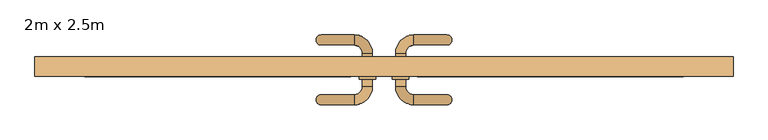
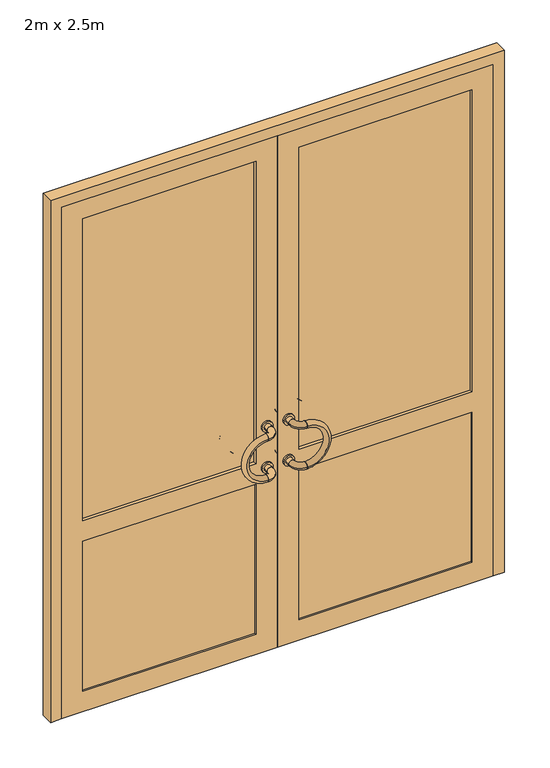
"""IFC4 building model written with IfcOpenShell, lengths in millimetres: door geometry, PVC Double - Panneaux vitrés haut : 2m x 2.5m."""

from ifc_helpers import new_model, si_unit, point, frame, frame_2d, origin, place, context, project, spatial, polyline, circle_curve, ellipse_curve, trimmed, segment, composite_curve, outline, extrude, faceted_brep, source, transform, mapped, element, save
from ifc_brep_helpers import plane_surface, revolved_surface, advanced_brep


def door_2m_x_2_5m_55b985e7(model_context):
    return source(origin(), model_context, "Body", "SolidModel", [
        extrude(outline(composite_curve([segment(trimmed(circle_curve(frame_2d((1100.0, -50.0)), 25.0), [point((1100.0, -25.0))], [point((1100.0, -75.0))], False, "CARTESIAN"), True, "CONTINUOUS"), segment(trimmed(circle_curve(frame_2d((1100.0, -50.0)), 25.0), [point((1100.0, -75.0))], [point((1100.0, -25.0))], False, "CARTESIAN"), True, "CONTINUOUS")], self_intersect=False), holes=[composite_curve([segment(trimmed(circle_curve(frame_2d((1100.0, -50.0)), 15.0), [point((1100.0, -35.0))], [point((1100.0, -65.0))], True, "CARTESIAN"), True, "CONTINUOUS"), segment(trimmed(circle_curve(frame_2d((1100.0, -50.0)), 15.0), [point((1100.0, -65.0))], [point((1100.0, -35.0))], True, "CARTESIAN"), True, "CONTINUOUS")], self_intersect=False)]), frame((0.0, -95.0, 0.0), z_axis=(0.0, 1.0, 0.0), x_axis=(0.0, 0.0, 1.0)), (0.0, 0.0, 1.0), 8.0),
        extrude(outline(composite_curve([segment(trimmed(circle_curve(frame_2d((900.0, -50.0)), 25.0), [point((900.0, -25.0))], [point((900.0, -75.0))], False, "CARTESIAN"), True, "CONTINUOUS"), segment(trimmed(circle_curve(frame_2d((900.0, -50.0)), 25.0), [point((900.0, -75.0))], [point((900.0, -25.0))], False, "CARTESIAN"), True, "CONTINUOUS")], self_intersect=False), holes=[composite_curve([segment(trimmed(circle_curve(frame_2d((900.0, -50.0)), 15.0), [point((900.0, -35.0))], [point((900.0, -65.0))], True, "CARTESIAN"), True, "CONTINUOUS"), segment(trimmed(circle_curve(frame_2d((900.0, -50.0)), 15.0), [point((900.0, -65.0))], [point((900.0, -35.0))], True, "CARTESIAN"), True, "CONTINUOUS")], self_intersect=False)]), frame((0.0, -95.0, 0.0), z_axis=(0.0, 1.0, 0.0), x_axis=(0.0, 0.0, 1.0)), (0.0, 0.0, 1.0), 8.0),
        extrude(outline(composite_curve([segment(trimmed(circle_curve(frame_2d((1100.0, -50.0)), 25.0), [point((1100.0, -25.0))], [point((1100.0, -75.0))], False, "CARTESIAN"), True, "CONTINUOUS"), segment(trimmed(circle_curve(frame_2d((1100.0, -50.0)), 25.0), [point((1100.0, -75.0))], [point((1100.0, -25.0))], False, "CARTESIAN"), True, "CONTINUOUS")], self_intersect=False), holes=[composite_curve([segment(trimmed(circle_curve(frame_2d((1100.0, -50.0)), 15.0), [point((1100.0, -35.0))], [point((1100.0, -65.0))], True, "CARTESIAN"), True, "CONTINUOUS"), segment(trimmed(circle_curve(frame_2d((1100.0, -50.0)), 15.0), [point((1100.0, -65.0))], [point((1100.0, -35.0))], True, "CARTESIAN"), True, "CONTINUOUS")], self_intersect=False)]), frame((0.0, -143.0, 0.0), z_axis=(0.0, 1.0, 0.0), x_axis=(0.0, 0.0, 1.0)), (0.0, 0.0, 1.0), 8.0),
        extrude(outline(composite_curve([segment(trimmed(circle_curve(frame_2d((900.0, -50.0)), 25.0), [point((900.0, -25.0))], [point((900.0, -75.0))], False, "CARTESIAN"), True, "CONTINUOUS"), segment(trimmed(circle_curve(frame_2d((900.0, -50.0)), 25.0), [point((900.0, -75.0))], [point((900.0, -25.0))], False, "CARTESIAN"), True, "CONTINUOUS")], self_intersect=False), holes=[composite_curve([segment(trimmed(circle_curve(frame_2d((900.0, -50.0)), 15.0), [point((900.0, -35.0))], [point((900.0, -65.0))], True, "CARTESIAN"), True, "CONTINUOUS"), segment(trimmed(circle_curve(frame_2d((900.0, -50.0)), 15.0), [point((900.0, -65.0))], [point((900.0, -35.0))], True, "CARTESIAN"), True, "CONTINUOUS")], self_intersect=False)]), frame((0.0, -143.0, 0.0), z_axis=(0.0, 1.0, 0.0), x_axis=(0.0, 0.0, 1.0)), (0.0, 0.0, 1.0), 8.0),
        advanced_brep(
        [(-90.0, -10.0, 1100.0), (-90.0, -40.0, 1100.0), (-90.0, -10.0, 900.0), (-90.0, -40.0, 900.0)],
        [
            (0, 1, circle_curve(frame((-90.0, -25.0, 1100.0), z_axis=(1.0, 0.0, 0.0), x_axis=(0.0, -1.0, 0.0)), 15.0)),
            (1, 0, circle_curve(frame((-90.0, -25.0, 1100.0), z_axis=(1.0, 0.0, 0.0), x_axis=(0.0, -1.0, 0.0)), 15.0)),
            (2, 3, circle_curve(frame((-90.0, -25.0, 900.0), z_axis=(1.0, 0.0, 0.0), x_axis=(0.0, -1.0, 0.0)), 15.0)),
            (3, 2, circle_curve(frame((-90.0, -25.0, 900.0), z_axis=(1.0, 0.0, 0.0), x_axis=(0.0, -1.0, 0.0)), 15.0)),
            (2, 0, circle_curve(frame((-90.0, -10.0, 1000.0), z_axis=(0.0, 1.0, 0.0), x_axis=(0.0, 0.0, 1.0)), 100.0)),
            (1, 3, circle_curve(frame((-90.0, -40.0, 1000.0), z_axis=(0.0, -1.0, 0.0), x_axis=(0.0, 0.0, 1.0)), 100.0)),
        ],
        [
            plane_surface(frame((-90.0, -25.0, 1000.0), z_axis=(1.0, 0.0, 0.0), x_axis=(0.0, 0.0, 1.0))),
            plane_surface(frame((-90.0, -25.0, 1000.0), z_axis=(1.0, 0.0, 0.0), x_axis=(0.0, 0.0, -1.0))),
            revolved_surface(trimmed(ellipse_curve(frame((-90.0, -25.0, 1100.0), z_axis=(-1.0, 0.0, 0.0), x_axis=(0.0, -1.0, 0.0)), 15.0, 15.0), [point((-90.0, -10.0, 1100.0))], [point((-90.0, -40.0, 1100.0))], True, "CARTESIAN"), (-90.0, -25.0, 1000.0), (0.0, 1.0, 0.0)),
            revolved_surface(trimmed(ellipse_curve(frame((-90.0, -25.0, 1100.0), z_axis=(-1.0, 0.0, 0.0), x_axis=(0.0, -1.0, 0.0)), 15.0, 15.0), [point((-90.0, -40.0, 1100.0))], [point((-90.0, -10.0, 1100.0))], True, "CARTESIAN"), (-90.0, -25.0, 1000.0), (0.0, 1.0, 0.0)),
        ],
        [
            (0, [[1, 2]]),
            (1, [[3, 4]]),
            (2, [[-3, 5, -2, 6]]),
            (3, [[-4, -6, -1, -5]]),
        ],
    ),
        advanced_brep(
        [(-65.0, -65.0, 1100.0), (-35.0, -65.0, 1100.0), (-90.0, -40.0, 1100.0), (-90.0, -10.0, 1100.0)],
        [
            (0, 1, circle_curve(frame((-50.0, -65.0, 1100.0), z_axis=(0.0, -1.0, 0.0), x_axis=(1.0, 0.0, 0.0)), 15.0)),
            (1, 0, circle_curve(frame((-50.0, -65.0, 1100.0), z_axis=(0.0, -1.0, 0.0), x_axis=(1.0, 0.0, 0.0)), 15.0)),
            (2, 3, circle_curve(frame((-90.0, -25.0, 1100.0), z_axis=(-1.0, 0.0, 0.0), x_axis=(0.0, 1.0, 0.0)), 15.0)),
            (3, 2, circle_curve(frame((-90.0, -25.0, 1100.0), z_axis=(-1.0, 0.0, 0.0), x_axis=(0.0, 1.0, 0.0)), 15.0)),
            (2, 0, circle_curve(frame((-90.0, -65.0, 1100.0), z_axis=(0.0, 0.0, -1.0), x_axis=(1.0, 0.0, 0.0)), 25.0)),
            (1, 3, circle_curve(frame((-90.0, -65.0, 1100.0), z_axis=(0.0, 0.0, 1.0), x_axis=(1.0, 0.0, 0.0)), 55.0)),
        ],
        [
            plane_surface(frame((-90.0, -65.0, 1100.0), z_axis=(0.0, -1.0, 0.0), x_axis=(1.0, 0.0, 0.0))),
            plane_surface(frame((-90.0, -65.0, 1100.0), z_axis=(-1.0, 0.0, 0.0), x_axis=(0.0, 1.0, 0.0))),
            revolved_surface(trimmed(ellipse_curve(frame((-50.0, -65.0, 1100.0), z_axis=(0.0, 1.0, 0.0), x_axis=(1.0, 0.0, 0.0)), 15.0, 15.0), [point((-65.0, -65.0, 1100.0))], [point((-35.0, -65.0, 1100.0))], True, "CARTESIAN"), (-90.0, -65.0, 1100.0), (0.0, 0.0, -1.0)),
            revolved_surface(trimmed(ellipse_curve(frame((-50.0, -65.0, 1100.0), z_axis=(0.0, 1.0, 0.0), x_axis=(1.0, 0.0, 0.0)), 15.0, 15.0), [point((-35.0, -65.0, 1100.0))], [point((-65.0, -65.0, 1100.0))], True, "CARTESIAN"), (-90.0, -65.0, 1100.0), (0.0, 0.0, -1.0)),
        ],
        [
            (0, [[1, 2]]),
            (1, [[3, 4]]),
            (2, [[-3, 5, -2, 6]]),
            (3, [[-4, -6, -1, -5]]),
        ],
    ),
        advanced_brep(
        [(-65.0, -65.0, 900.0), (-35.0, -65.0, 900.0), (-90.0, -40.0, 900.0), (-90.0, -10.0, 900.0)],
        [
            (0, 1, circle_curve(frame((-50.0, -65.0, 900.0), z_axis=(0.0, -1.0, 0.0), x_axis=(1.0, 0.0, 0.0)), 15.0)),
            (1, 0, circle_curve(frame((-50.0, -65.0, 900.0), z_axis=(0.0, -1.0, 0.0), x_axis=(1.0, 0.0, 0.0)), 15.0)),
            (2, 3, circle_curve(frame((-90.0, -25.0, 900.0), z_axis=(-1.0, 0.0, 0.0), x_axis=(0.0, 1.0, 0.0)), 15.0)),
            (3, 2, circle_curve(frame((-90.0, -25.0, 900.0), z_axis=(-1.0, 0.0, 0.0), x_axis=(0.0, 1.0, 0.0)), 15.0)),
            (2, 0, circle_curve(frame((-90.0, -65.0, 900.0), z_axis=(0.0, 0.0, -1.0), x_axis=(1.0, 0.0, 0.0)), 25.0)),
            (1, 3, circle_curve(frame((-90.0, -65.0, 900.0), z_axis=(0.0, 0.0, 1.0), x_axis=(1.0, 0.0, 0.0)), 55.0)),
        ],
        [
            plane_surface(frame((-90.0, -65.0, 1100.0), z_axis=(0.0, -1.0, 0.0), x_axis=(1.0, 0.0, 0.0))),
            plane_surface(frame((-90.0, -65.0, 1100.0), z_axis=(-1.0, 0.0, 0.0), x_axis=(0.0, 1.0, 0.0))),
            revolved_surface(trimmed(ellipse_curve(frame((-50.0, -65.0, 900.0), z_axis=(0.0, 1.0, 0.0), x_axis=(1.0, 0.0, 0.0)), 15.0, 15.0), [point((-65.0, -65.0, 900.0))], [point((-35.0, -65.0, 900.0))], True, "CARTESIAN"), (-90.0, -65.0, 1100.0), (0.0, 0.0, -1.0)),
            revolved_surface(trimmed(ellipse_curve(frame((-50.0, -65.0, 900.0), z_axis=(0.0, 1.0, 0.0), x_axis=(1.0, 0.0, 0.0)), 15.0, 15.0), [point((-35.0, -65.0, 900.0))], [point((-65.0, -65.0, 900.0))], True, "CARTESIAN"), (-90.0, -65.0, 1100.0), (0.0, 0.0, -1.0)),
        ],
        [
            (0, [[1, 2]]),
            (1, [[3, 4]]),
            (2, [[-3, 5, -2, 6]]),
            (3, [[-4, -6, -1, -5]]),
        ],
    ),
        extrude(outline(composite_curve([segment(trimmed(circle_curve(frame_2d((1100.0, -50.0)), 15.0), [point((1100.0, -35.0))], [point((1100.0, -65.0))], False, "CARTESIAN"), True, "CONTINUOUS"), segment(trimmed(circle_curve(frame_2d((1100.0, -50.0)), 15.0), [point((1100.0, -65.0))], [point((1100.0, -35.0))], False, "CARTESIAN"), True, "CONTINUOUS")], self_intersect=False)), frame((0.0, -95.0, 0.0), z_axis=(0.0, 1.0, 0.0), x_axis=(0.0, 0.0, 1.0)), (0.0, 0.0, 1.0), 30.0),
        extrude(outline(composite_curve([segment(trimmed(circle_curve(frame_2d((900.0, -50.0)), 15.0), [point((900.0, -35.0))], [point((900.0, -65.0))], False, "CARTESIAN"), True, "CONTINUOUS"), segment(trimmed(circle_curve(frame_2d((900.0, -50.0)), 15.0), [point((900.0, -65.0))], [point((900.0, -35.0))], False, "CARTESIAN"), True, "CONTINUOUS")], self_intersect=False)), frame((0.0, -95.0, 0.0), z_axis=(0.0, 1.0, 0.0), x_axis=(0.0, 0.0, 1.0)), (0.0, 0.0, 1.0), 30.0),
        advanced_brep(
        [(-90.0, -190.0, 1100.0), (-90.0, -220.0, 1100.0), (-90.0, -190.0, 900.0), (-90.0, -220.0, 900.0)],
        [
            (0, 1, circle_curve(frame((-90.0, -205.0, 1100.0), z_axis=(1.0, 0.0, 0.0), x_axis=(0.0, -1.0, 0.0)), 15.0)),
            (1, 0, circle_curve(frame((-90.0, -205.0, 1100.0), z_axis=(1.0, 0.0, 0.0), x_axis=(0.0, -1.0, 0.0)), 15.0)),
            (2, 3, circle_curve(frame((-90.0, -205.0, 900.0), z_axis=(1.0, 0.0, 0.0), x_axis=(0.0, -1.0, 0.0)), 15.0)),
            (3, 2, circle_curve(frame((-90.0, -205.0, 900.0), z_axis=(1.0, 0.0, 0.0), x_axis=(0.0, -1.0, 0.0)), 15.0)),
            (2, 0, circle_curve(frame((-90.0, -190.0, 1000.0), z_axis=(0.0, 1.0, 0.0), x_axis=(0.0, 0.0, 1.0)), 100.0)),
            (1, 3, circle_curve(frame((-90.0, -220.0, 1000.0), z_axis=(0.0, -1.0, 0.0), x_axis=(0.0, 0.0, 1.0)), 100.0)),
        ],
        [
            plane_surface(frame((-90.0, -220.0, 1000.0), z_axis=(1.0, 0.0, 0.0), x_axis=(0.0, 0.0, 1.0))),
            plane_surface(frame((-90.0, -220.0, 1000.0), z_axis=(1.0, 0.0, 0.0), x_axis=(0.0, 0.0, -1.0))),
            revolved_surface(trimmed(ellipse_curve(frame((-90.0, -205.0, 1100.0), z_axis=(-1.0, 0.0, 0.0), x_axis=(0.0, -1.0, 0.0)), 15.0, 15.0), [point((-90.0, -190.0, 1100.0))], [point((-90.0, -220.0, 1100.0))], True, "CARTESIAN"), (-90.0, -220.0, 1000.0), (0.0, 1.0, 0.0)),
            revolved_surface(trimmed(ellipse_curve(frame((-90.0, -205.0, 1100.0), z_axis=(-1.0, 0.0, 0.0), x_axis=(0.0, -1.0, 0.0)), 15.0, 15.0), [point((-90.0, -220.0, 1100.0))], [point((-90.0, -190.0, 1100.0))], True, "CARTESIAN"), (-90.0, -220.0, 1000.0), (0.0, 1.0, 0.0)),
        ],
        [
            (0, [[1, 2]]),
            (1, [[3, 4]]),
            (2, [[-3, 5, -2, 6]]),
            (3, [[-4, -6, -1, -5]]),
        ],
    ),
        advanced_brep(
        [(-35.0, -165.0, 1100.0), (-65.0, -165.0, 1100.0), (-90.0, -220.0, 1100.0), (-90.0, -190.0, 1100.0)],
        [
            (0, 1, circle_curve(frame((-50.0, -165.0, 1100.0), z_axis=(0.0, 1.0, 0.0), x_axis=(-1.0, 0.0, 0.0)), 15.0)),
            (1, 0, circle_curve(frame((-50.0, -165.0, 1100.0), z_axis=(0.0, 1.0, 0.0), x_axis=(-1.0, 0.0, 0.0)), 15.0)),
            (2, 3, circle_curve(frame((-90.0, -205.0, 1100.0), z_axis=(-1.0, 0.0, 0.0), x_axis=(0.0, 1.0, 0.0)), 15.0)),
            (3, 2, circle_curve(frame((-90.0, -205.0, 1100.0), z_axis=(-1.0, 0.0, 0.0), x_axis=(0.0, 1.0, 0.0)), 15.0)),
            (2, 0, circle_curve(frame((-90.0, -165.0, 1100.0), z_axis=(0.0, 0.0, 1.0), x_axis=(1.0, 0.0, 0.0)), 55.0)),
            (1, 3, circle_curve(frame((-90.0, -165.0, 1100.0), z_axis=(0.0, 0.0, -1.0), x_axis=(1.0, 0.0, 0.0)), 25.0)),
        ],
        [
            plane_surface(frame((-90.0, -165.0, 1100.0), z_axis=(0.0, 1.0, 0.0), x_axis=(1.0, 0.0, 0.0))),
            plane_surface(frame((-90.0, -165.0, 1100.0), z_axis=(-1.0, 0.0, 0.0), x_axis=(0.0, -1.0, 0.0))),
            revolved_surface(trimmed(ellipse_curve(frame((-50.0, -165.0, 1100.0), z_axis=(0.0, -1.0, 0.0), x_axis=(-1.0, 0.0, 0.0)), 15.0, 15.0), [point((-35.0, -165.0, 1100.0))], [point((-65.0, -165.0, 1100.0))], True, "CARTESIAN"), (-90.0, -165.0, 1100.0), (0.0, 0.0, 1.0)),
            revolved_surface(trimmed(ellipse_curve(frame((-50.0, -165.0, 1100.0), z_axis=(0.0, -1.0, 0.0), x_axis=(-1.0, 0.0, 0.0)), 15.0, 15.0), [point((-65.0, -165.0, 1100.0))], [point((-35.0, -165.0, 1100.0))], True, "CARTESIAN"), (-90.0, -165.0, 1100.0), (0.0, 0.0, 1.0)),
        ],
        [
            (0, [[1, 2]]),
            (1, [[3, 4]]),
            (2, [[-3, 5, -2, 6]]),
            (3, [[-4, -6, -1, -5]]),
        ],
    ),
        advanced_brep(
        [(-35.0, -165.0, 900.0), (-65.0, -165.0, 900.0), (-90.0, -220.0, 900.0), (-90.0, -190.0, 900.0)],
        [
            (0, 1, circle_curve(frame((-50.0, -165.0, 900.0), z_axis=(0.0, 1.0, 0.0), x_axis=(-1.0, 0.0, 0.0)), 15.0)),
            (1, 0, circle_curve(frame((-50.0, -165.0, 900.0), z_axis=(0.0, 1.0, 0.0), x_axis=(-1.0, 0.0, 0.0)), 15.0)),
            (2, 3, circle_curve(frame((-90.0, -205.0, 900.0), z_axis=(-1.0, 0.0, 0.0), x_axis=(0.0, 1.0, 0.0)), 15.0)),
            (3, 2, circle_curve(frame((-90.0, -205.0, 900.0), z_axis=(-1.0, 0.0, 0.0), x_axis=(0.0, 1.0, 0.0)), 15.0)),
            (2, 0, circle_curve(frame((-90.0, -165.0, 900.0), z_axis=(0.0, 0.0, 1.0), x_axis=(1.0, 0.0, 0.0)), 55.0)),
            (1, 3, circle_curve(frame((-90.0, -165.0, 900.0), z_axis=(0.0, 0.0, -1.0), x_axis=(1.0, 0.0, 0.0)), 25.0)),
        ],
        [
            plane_surface(frame((-90.0, -165.0, 1100.0), z_axis=(0.0, 1.0, 0.0), x_axis=(1.0, 0.0, 0.0))),
            plane_surface(frame((-90.0, -165.0, 1100.0), z_axis=(-1.0, 0.0, 0.0), x_axis=(0.0, -1.0, 0.0))),
            revolved_surface(trimmed(ellipse_curve(frame((-50.0, -165.0, 900.0), z_axis=(0.0, -1.0, 0.0), x_axis=(-1.0, 0.0, 0.0)), 15.0, 15.0), [point((-35.0, -165.0, 900.0))], [point((-65.0, -165.0, 900.0))], True, "CARTESIAN"), (-90.0, -165.0, 1100.0), (0.0, 0.0, 1.0)),
            revolved_surface(trimmed(ellipse_curve(frame((-50.0, -165.0, 900.0), z_axis=(0.0, -1.0, 0.0), x_axis=(-1.0, 0.0, 0.0)), 15.0, 15.0), [point((-65.0, -165.0, 900.0))], [point((-35.0, -165.0, 900.0))], True, "CARTESIAN"), (-90.0, -165.0, 1100.0), (0.0, 0.0, 1.0)),
        ],
        [
            (0, [[1, 2]]),
            (1, [[3, 4]]),
            (2, [[-3, 5, -2, 6]]),
            (3, [[-4, -6, -1, -5]]),
        ],
    ),
        extrude(outline(composite_curve([segment(trimmed(circle_curve(frame_2d((1100.0, -50.0)), 15.0), [point((1100.0, -35.0))], [point((1100.0, -65.0))], False, "CARTESIAN"), True, "CONTINUOUS"), segment(trimmed(circle_curve(frame_2d((1100.0, -50.0)), 15.0), [point((1100.0, -65.0))], [point((1100.0, -35.0))], False, "CARTESIAN"), True, "CONTINUOUS")], self_intersect=False)), frame((0.0, -165.0, 0.0), z_axis=(0.0, 1.0, 0.0), x_axis=(0.0, 0.0, 1.0)), (0.0, 0.0, 1.0), 30.0),
        extrude(outline(composite_curve([segment(trimmed(circle_curve(frame_2d((900.0, -50.0)), 15.0), [point((900.0, -35.0))], [point((900.0, -65.0))], False, "CARTESIAN"), True, "CONTINUOUS"), segment(trimmed(circle_curve(frame_2d((900.0, -50.0)), 15.0), [point((900.0, -65.0))], [point((900.0, -35.0))], False, "CARTESIAN"), True, "CONTINUOUS")], self_intersect=False)), frame((0.0, -165.0, 0.0), z_axis=(0.0, 1.0, 0.0), x_axis=(0.0, 0.0, 1.0)), (0.0, 0.0, 1.0), 30.0),
        extrude(outline(composite_curve([segment(trimmed(circle_curve(frame_2d((1100.0, 50.0)), 25.0), [point((1100.0, 25.0))], [point((1100.0, 75.0))], False, "CARTESIAN"), True, "CONTINUOUS"), segment(trimmed(circle_curve(frame_2d((1100.0, 50.0)), 25.0), [point((1100.0, 75.0))], [point((1100.0, 25.0))], False, "CARTESIAN"), True, "CONTINUOUS")], self_intersect=False), holes=[composite_curve([segment(trimmed(circle_curve(frame_2d((1100.0, 50.0)), 15.0), [point((1100.0, 35.0))], [point((1100.0, 65.0))], True, "CARTESIAN"), True, "CONTINUOUS"), segment(trimmed(circle_curve(frame_2d((1100.0, 50.0)), 15.0), [point((1100.0, 65.0))], [point((1100.0, 35.0))], True, "CARTESIAN"), True, "CONTINUOUS")], self_intersect=False)]), frame((0.0, -95.0, 0.0), z_axis=(0.0, 1.0, 0.0), x_axis=(0.0, 0.0, 1.0)), (0.0, 0.0, 1.0), 8.0),
        extrude(outline(composite_curve([segment(trimmed(circle_curve(frame_2d((900.0, 50.0)), 25.0), [point((900.0, 25.0))], [point((900.0, 75.0))], False, "CARTESIAN"), True, "CONTINUOUS"), segment(trimmed(circle_curve(frame_2d((900.0, 50.0)), 25.0), [point((900.0, 75.0))], [point((900.0, 25.0))], False, "CARTESIAN"), True, "CONTINUOUS")], self_intersect=False), holes=[composite_curve([segment(trimmed(circle_curve(frame_2d((900.0, 50.0)), 15.0), [point((900.0, 35.0))], [point((900.0, 65.0))], True, "CARTESIAN"), True, "CONTINUOUS"), segment(trimmed(circle_curve(frame_2d((900.0, 50.0)), 15.0), [point((900.0, 65.0))], [point((900.0, 35.0))], True, "CARTESIAN"), True, "CONTINUOUS")], self_intersect=False)]), frame((0.0, -95.0, 0.0), z_axis=(0.0, 1.0, 0.0), x_axis=(0.0, 0.0, 1.0)), (0.0, 0.0, 1.0), 8.0),
        extrude(outline(composite_curve([segment(trimmed(circle_curve(frame_2d((1100.0, 50.0)), 25.0), [point((1100.0, 25.0))], [point((1100.0, 75.0))], False, "CARTESIAN"), True, "CONTINUOUS"), segment(trimmed(circle_curve(frame_2d((1100.0, 50.0)), 25.0), [point((1100.0, 75.0))], [point((1100.0, 25.0))], False, "CARTESIAN"), True, "CONTINUOUS")], self_intersect=False), holes=[composite_curve([segment(trimmed(circle_curve(frame_2d((1100.0, 50.0)), 15.0), [point((1100.0, 35.0))], [point((1100.0, 65.0))], True, "CARTESIAN"), True, "CONTINUOUS"), segment(trimmed(circle_curve(frame_2d((1100.0, 50.0)), 15.0), [point((1100.0, 65.0))], [point((1100.0, 35.0))], True, "CARTESIAN"), True, "CONTINUOUS")], self_intersect=False)]), frame((0.0, -143.0, 0.0), z_axis=(0.0, 1.0, 0.0), x_axis=(0.0, 0.0, 1.0)), (0.0, 0.0, 1.0), 8.0),
        extrude(outline(composite_curve([segment(trimmed(circle_curve(frame_2d((900.0, 50.0)), 25.0), [point((900.0, 25.0))], [point((900.0, 75.0))], False, "CARTESIAN"), True, "CONTINUOUS"), segment(trimmed(circle_curve(frame_2d((900.0, 50.0)), 25.0), [point((900.0, 75.0))], [point((900.0, 25.0))], False, "CARTESIAN"), True, "CONTINUOUS")], self_intersect=False), holes=[composite_curve([segment(trimmed(circle_curve(frame_2d((900.0, 50.0)), 15.0), [point((900.0, 35.0))], [point((900.0, 65.0))], True, "CARTESIAN"), True, "CONTINUOUS"), segment(trimmed(circle_curve(frame_2d((900.0, 50.0)), 15.0), [point((900.0, 65.0))], [point((900.0, 35.0))], True, "CARTESIAN"), True, "CONTINUOUS")], self_intersect=False)]), frame((0.0, -143.0, 0.0), z_axis=(0.0, 1.0, 0.0), x_axis=(0.0, 0.0, 1.0)), (0.0, 0.0, 1.0), 8.0),
        advanced_brep(
        [(90.0, -10.0, 1100.0), (90.0, -40.0, 1100.0), (90.0, -10.0, 900.0), (90.0, -40.0, 900.0)],
        [
            (0, 1, circle_curve(frame((90.0, -25.0, 1100.0), z_axis=(-1.0, 0.0, 0.0), x_axis=(0.0, -1.0, 0.0)), 15.0)),
            (1, 0, circle_curve(frame((90.0, -25.0, 1100.0), z_axis=(-1.0, 0.0, 0.0), x_axis=(0.0, -1.0, 0.0)), 15.0)),
            (2, 3, circle_curve(frame((90.0, -25.0, 900.0), z_axis=(-1.0, 0.0, 0.0), x_axis=(0.0, -1.0, 0.0)), 15.0)),
            (3, 2, circle_curve(frame((90.0, -25.0, 900.0), z_axis=(-1.0, 0.0, 0.0), x_axis=(0.0, -1.0, 0.0)), 15.0)),
            (3, 1, circle_curve(frame((90.0, -40.0, 1000.0), z_axis=(0.0, -1.0, 0.0), x_axis=(0.0, 0.0, 1.0)), 100.0)),
            (0, 2, circle_curve(frame((90.0, -10.0, 1000.0), z_axis=(0.0, 1.0, 0.0), x_axis=(0.0, 0.0, 1.0)), 100.0)),
        ],
        [
            plane_surface(frame((90.0, -25.0, 1000.0), z_axis=(-1.0, 0.0, 0.0), x_axis=(0.0, 0.0, 1.0))),
            plane_surface(frame((90.0, -25.0, 1000.0), z_axis=(-1.0, 0.0, 0.0), x_axis=(0.0, 0.0, -1.0))),
            revolved_surface(trimmed(ellipse_curve(frame((90.0, -25.0, 1100.0), z_axis=(-1.0, 0.0, 0.0), x_axis=(0.0, -1.0, 0.0)), 15.0, 15.0), [point((90.0, -10.0, 1100.0))], [point((90.0, -40.0, 1100.0))], True, "CARTESIAN"), (90.0, -25.0, 1000.0), (0.0, 1.0, 0.0)),
            revolved_surface(trimmed(ellipse_curve(frame((90.0, -25.0, 1100.0), z_axis=(-1.0, 0.0, 0.0), x_axis=(0.0, -1.0, 0.0)), 15.0, 15.0), [point((90.0, -40.0, 1100.0))], [point((90.0, -10.0, 1100.0))], True, "CARTESIAN"), (90.0, -25.0, 1000.0), (0.0, 1.0, 0.0)),
        ],
        [
            (0, [[1, 2]]),
            (1, [[3, 4]]),
            (2, [[5, -1, 6, -4]]),
            (3, [[-6, -2, -5, -3]]),
        ],
    ),
        advanced_brep(
        [(65.0, -65.0, 1100.0), (35.0, -65.0, 1100.0), (90.0, -40.0, 1100.0), (90.0, -10.0, 1100.0)],
        [
            (0, 1, circle_curve(frame((50.0, -65.0, 1100.0), z_axis=(0.0, -1.0, 0.0), x_axis=(-1.0, 0.0, 0.0)), 15.0)),
            (1, 0, circle_curve(frame((50.0, -65.0, 1100.0), z_axis=(0.0, -1.0, 0.0), x_axis=(-1.0, 0.0, 0.0)), 15.0)),
            (2, 3, circle_curve(frame((90.0, -25.0, 1100.0), z_axis=(1.0, 0.0, 0.0), x_axis=(0.0, 1.0, 0.0)), 15.0)),
            (3, 2, circle_curve(frame((90.0, -25.0, 1100.0), z_axis=(1.0, 0.0, 0.0), x_axis=(0.0, 1.0, 0.0)), 15.0)),
            (3, 1, circle_curve(frame((90.0, -65.0, 1100.0), z_axis=(0.0, 0.0, 1.0), x_axis=(-1.0, 0.0, 0.0)), 55.0)),
            (0, 2, circle_curve(frame((90.0, -65.0, 1100.0), z_axis=(0.0, 0.0, -1.0), x_axis=(-1.0, 0.0, 0.0)), 25.0)),
        ],
        [
            plane_surface(frame((90.0, -65.0, 1100.0), z_axis=(0.0, -1.0, 0.0), x_axis=(-1.0, 0.0, 0.0))),
            plane_surface(frame((90.0, -65.0, 1100.0), z_axis=(1.0, 0.0, 0.0), x_axis=(0.0, 1.0, 0.0))),
            revolved_surface(trimmed(ellipse_curve(frame((50.0, -65.0, 1100.0), z_axis=(0.0, -1.0, 0.0), x_axis=(-1.0, 0.0, 0.0)), 15.0, 15.0), [point((65.0, -65.0, 1100.0))], [point((35.0, -65.0, 1100.0))], True, "CARTESIAN"), (90.0, -65.0, 1100.0), (0.0, 0.0, -1.0)),
            revolved_surface(trimmed(ellipse_curve(frame((50.0, -65.0, 1100.0), z_axis=(0.0, -1.0, 0.0), x_axis=(-1.0, 0.0, 0.0)), 15.0, 15.0), [point((35.0, -65.0, 1100.0))], [point((65.0, -65.0, 1100.0))], True, "CARTESIAN"), (90.0, -65.0, 1100.0), (0.0, 0.0, -1.0)),
        ],
        [
            (0, [[1, 2]]),
            (1, [[3, 4]]),
            (2, [[5, -1, 6, -4]]),
            (3, [[-6, -2, -5, -3]]),
        ],
    ),
        advanced_brep(
        [(65.0, -65.0, 900.0), (35.0, -65.0, 900.0), (90.0, -40.0, 900.0), (90.0, -10.0, 900.0)],
        [
            (0, 1, circle_curve(frame((50.0, -65.0, 900.0), z_axis=(0.0, -1.0, 0.0), x_axis=(-1.0, 0.0, 0.0)), 15.0)),
            (1, 0, circle_curve(frame((50.0, -65.0, 900.0), z_axis=(0.0, -1.0, 0.0), x_axis=(-1.0, 0.0, 0.0)), 15.0)),
            (2, 3, circle_curve(frame((90.0, -25.0, 900.0), z_axis=(1.0, 0.0, 0.0), x_axis=(0.0, 1.0, 0.0)), 15.0)),
            (3, 2, circle_curve(frame((90.0, -25.0, 900.0), z_axis=(1.0, 0.0, 0.0), x_axis=(0.0, 1.0, 0.0)), 15.0)),
            (3, 1, circle_curve(frame((90.0, -65.0, 900.0), z_axis=(0.0, 0.0, 1.0), x_axis=(-1.0, 0.0, 0.0)), 55.0)),
            (0, 2, circle_curve(frame((90.0, -65.0, 900.0), z_axis=(0.0, 0.0, -1.0), x_axis=(-1.0, 0.0, 0.0)), 25.0)),
        ],
        [
            plane_surface(frame((90.0, -65.0, 1100.0), z_axis=(0.0, -1.0, 0.0), x_axis=(-1.0, 0.0, 0.0))),
            plane_surface(frame((90.0, -65.0, 1100.0), z_axis=(1.0, 0.0, 0.0), x_axis=(0.0, 1.0, 0.0))),
            revolved_surface(trimmed(ellipse_curve(frame((50.0, -65.0, 900.0), z_axis=(0.0, -1.0, 0.0), x_axis=(-1.0, 0.0, 0.0)), 15.0, 15.0), [point((65.0, -65.0, 900.0))], [point((35.0, -65.0, 900.0))], True, "CARTESIAN"), (90.0, -65.0, 1100.0), (0.0, 0.0, -1.0)),
            revolved_surface(trimmed(ellipse_curve(frame((50.0, -65.0, 900.0), z_axis=(0.0, -1.0, 0.0), x_axis=(-1.0, 0.0, 0.0)), 15.0, 15.0), [point((35.0, -65.0, 900.0))], [point((65.0, -65.0, 900.0))], True, "CARTESIAN"), (90.0, -65.0, 1100.0), (0.0, 0.0, -1.0)),
        ],
        [
            (0, [[1, 2]]),
            (1, [[3, 4]]),
            (2, [[5, -1, 6, -4]]),
            (3, [[-6, -2, -5, -3]]),
        ],
    ),
        extrude(outline(composite_curve([segment(trimmed(circle_curve(frame_2d((1100.0, 50.0)), 15.0), [point((1100.0, 35.0))], [point((1100.0, 65.0))], False, "CARTESIAN"), True, "CONTINUOUS"), segment(trimmed(circle_curve(frame_2d((1100.0, 50.0)), 15.0), [point((1100.0, 65.0))], [point((1100.0, 35.0))], False, "CARTESIAN"), True, "CONTINUOUS")], self_intersect=False)), frame((0.0, -95.0, 0.0), z_axis=(0.0, 1.0, 0.0), x_axis=(0.0, 0.0, 1.0)), (0.0, 0.0, 1.0), 30.0),
        extrude(outline(composite_curve([segment(trimmed(circle_curve(frame_2d((900.0, 50.0)), 15.0), [point((900.0, 35.0))], [point((900.0, 65.0))], False, "CARTESIAN"), True, "CONTINUOUS"), segment(trimmed(circle_curve(frame_2d((900.0, 50.0)), 15.0), [point((900.0, 65.0))], [point((900.0, 35.0))], False, "CARTESIAN"), True, "CONTINUOUS")], self_intersect=False)), frame((0.0, -95.0, 0.0), z_axis=(0.0, 1.0, 0.0), x_axis=(0.0, 0.0, 1.0)), (0.0, 0.0, 1.0), 30.0),
        advanced_brep(
        [(90.0, -190.0, 1100.0), (90.0, -220.0, 1100.0), (90.0, -190.0, 900.0), (90.0, -220.0, 900.0)],
        [
            (0, 1, circle_curve(frame((90.0, -205.0, 1100.0), z_axis=(-1.0, 0.0, 0.0), x_axis=(0.0, -1.0, 0.0)), 15.0)),
            (1, 0, circle_curve(frame((90.0, -205.0, 1100.0), z_axis=(-1.0, 0.0, 0.0), x_axis=(0.0, -1.0, 0.0)), 15.0)),
            (2, 3, circle_curve(frame((90.0, -205.0, 900.0), z_axis=(-1.0, 0.0, 0.0), x_axis=(0.0, -1.0, 0.0)), 15.0)),
            (3, 2, circle_curve(frame((90.0, -205.0, 900.0), z_axis=(-1.0, 0.0, 0.0), x_axis=(0.0, -1.0, 0.0)), 15.0)),
            (3, 1, circle_curve(frame((90.0, -220.0, 1000.0), z_axis=(0.0, -1.0, 0.0), x_axis=(0.0, 0.0, 1.0)), 100.0)),
            (0, 2, circle_curve(frame((90.0, -190.0, 1000.0), z_axis=(0.0, 1.0, 0.0), x_axis=(0.0, 0.0, 1.0)), 100.0)),
        ],
        [
            plane_surface(frame((90.0, -220.0, 1000.0), z_axis=(-1.0, 0.0, 0.0), x_axis=(0.0, 0.0, 1.0))),
            plane_surface(frame((90.0, -220.0, 1000.0), z_axis=(-1.0, 0.0, 0.0), x_axis=(0.0, 0.0, -1.0))),
            revolved_surface(trimmed(ellipse_curve(frame((90.0, -205.0, 1100.0), z_axis=(-1.0, 0.0, 0.0), x_axis=(0.0, -1.0, 0.0)), 15.0, 15.0), [point((90.0, -190.0, 1100.0))], [point((90.0, -220.0, 1100.0))], True, "CARTESIAN"), (90.0, -220.0, 1000.0), (0.0, 1.0, 0.0)),
            revolved_surface(trimmed(ellipse_curve(frame((90.0, -205.0, 1100.0), z_axis=(-1.0, 0.0, 0.0), x_axis=(0.0, -1.0, 0.0)), 15.0, 15.0), [point((90.0, -220.0, 1100.0))], [point((90.0, -190.0, 1100.0))], True, "CARTESIAN"), (90.0, -220.0, 1000.0), (0.0, 1.0, 0.0)),
        ],
        [
            (0, [[1, 2]]),
            (1, [[3, 4]]),
            (2, [[5, -1, 6, -4]]),
            (3, [[-6, -2, -5, -3]]),
        ],
    ),
        advanced_brep(
        [(35.0, -165.0, 1100.0), (65.0, -165.0, 1100.0), (90.0, -220.0, 1100.0), (90.0, -190.0, 1100.0)],
        [
            (0, 1, circle_curve(frame((50.0, -165.0, 1100.0), z_axis=(0.0, 1.0, 0.0), x_axis=(1.0, 0.0, 0.0)), 15.0)),
            (1, 0, circle_curve(frame((50.0, -165.0, 1100.0), z_axis=(0.0, 1.0, 0.0), x_axis=(1.0, 0.0, 0.0)), 15.0)),
            (2, 3, circle_curve(frame((90.0, -205.0, 1100.0), z_axis=(1.0, 0.0, 0.0), x_axis=(0.0, 1.0, 0.0)), 15.0)),
            (3, 2, circle_curve(frame((90.0, -205.0, 1100.0), z_axis=(1.0, 0.0, 0.0), x_axis=(0.0, 1.0, 0.0)), 15.0)),
            (3, 1, circle_curve(frame((90.0, -165.0, 1100.0), z_axis=(0.0, 0.0, -1.0), x_axis=(-1.0, 0.0, 0.0)), 25.0)),
            (0, 2, circle_curve(frame((90.0, -165.0, 1100.0), z_axis=(0.0, 0.0, 1.0), x_axis=(-1.0, 0.0, 0.0)), 55.0)),
        ],
        [
            plane_surface(frame((90.0, -165.0, 1100.0), z_axis=(0.0, 1.0, 0.0), x_axis=(-1.0, 0.0, 0.0))),
            plane_surface(frame((90.0, -165.0, 1100.0), z_axis=(1.0, 0.0, 0.0), x_axis=(0.0, -1.0, 0.0))),
            revolved_surface(trimmed(ellipse_curve(frame((50.0, -165.0, 1100.0), z_axis=(0.0, 1.0, 0.0), x_axis=(1.0, 0.0, 0.0)), 15.0, 15.0), [point((35.0, -165.0, 1100.0))], [point((65.0, -165.0, 1100.0))], True, "CARTESIAN"), (90.0, -165.0, 1100.0), (0.0, 0.0, 1.0)),
            revolved_surface(trimmed(ellipse_curve(frame((50.0, -165.0, 1100.0), z_axis=(0.0, 1.0, 0.0), x_axis=(1.0, 0.0, 0.0)), 15.0, 15.0), [point((65.0, -165.0, 1100.0))], [point((35.0, -165.0, 1100.0))], True, "CARTESIAN"), (90.0, -165.0, 1100.0), (0.0, 0.0, 1.0)),
        ],
        [
            (0, [[1, 2]]),
            (1, [[3, 4]]),
            (2, [[5, -1, 6, -4]]),
            (3, [[-6, -2, -5, -3]]),
        ],
    ),
        advanced_brep(
        [(35.0, -165.0, 900.0), (65.0, -165.0, 900.0), (90.0, -220.0, 900.0), (90.0, -190.0, 900.0)],
        [
            (0, 1, circle_curve(frame((50.0, -165.0, 900.0), z_axis=(0.0, 1.0, 0.0), x_axis=(1.0, 0.0, 0.0)), 15.0)),
            (1, 0, circle_curve(frame((50.0, -165.0, 900.0), z_axis=(0.0, 1.0, 0.0), x_axis=(1.0, 0.0, 0.0)), 15.0)),
            (2, 3, circle_curve(frame((90.0, -205.0, 900.0), z_axis=(1.0, 0.0, 0.0), x_axis=(0.0, 1.0, 0.0)), 15.0)),
            (3, 2, circle_curve(frame((90.0, -205.0, 900.0), z_axis=(1.0, 0.0, 0.0), x_axis=(0.0, 1.0, 0.0)), 15.0)),
            (3, 1, circle_curve(frame((90.0, -165.0, 900.0), z_axis=(0.0, 0.0, -1.0), x_axis=(-1.0, 0.0, 0.0)), 25.0)),
            (0, 2, circle_curve(frame((90.0, -165.0, 900.0), z_axis=(0.0, 0.0, 1.0), x_axis=(-1.0, 0.0, 0.0)), 55.0)),
        ],
        [
            plane_surface(frame((90.0, -165.0, 1100.0), z_axis=(0.0, 1.0, 0.0), x_axis=(-1.0, 0.0, 0.0))),
            plane_surface(frame((90.0, -165.0, 1100.0), z_axis=(1.0, 0.0, 0.0), x_axis=(0.0, -1.0, 0.0))),
            revolved_surface(trimmed(ellipse_curve(frame((50.0, -165.0, 900.0), z_axis=(0.0, 1.0, 0.0), x_axis=(1.0, 0.0, 0.0)), 15.0, 15.0), [point((35.0, -165.0, 900.0))], [point((65.0, -165.0, 900.0))], True, "CARTESIAN"), (90.0, -165.0, 1100.0), (0.0, 0.0, 1.0)),
            revolved_surface(trimmed(ellipse_curve(frame((50.0, -165.0, 900.0), z_axis=(0.0, 1.0, 0.0), x_axis=(1.0, 0.0, 0.0)), 15.0, 15.0), [point((65.0, -165.0, 900.0))], [point((35.0, -165.0, 900.0))], True, "CARTESIAN"), (90.0, -165.0, 1100.0), (0.0, 0.0, 1.0)),
        ],
        [
            (0, [[1, 2]]),
            (1, [[3, 4]]),
            (2, [[5, -1, 6, -4]]),
            (3, [[-6, -2, -5, -3]]),
        ],
    ),
        extrude(outline(composite_curve([segment(trimmed(circle_curve(frame_2d((1100.0, 50.0)), 15.0), [point((1100.0, 35.0))], [point((1100.0, 65.0))], False, "CARTESIAN"), True, "CONTINUOUS"), segment(trimmed(circle_curve(frame_2d((1100.0, 50.0)), 15.0), [point((1100.0, 65.0))], [point((1100.0, 35.0))], False, "CARTESIAN"), True, "CONTINUOUS")], self_intersect=False)), frame((0.0, -165.0, 0.0), z_axis=(0.0, 1.0, 0.0), x_axis=(0.0, 0.0, 1.0)), (0.0, 0.0, 1.0), 30.0),
        extrude(outline(composite_curve([segment(trimmed(circle_curve(frame_2d((900.0, 50.0)), 15.0), [point((900.0, 35.0))], [point((900.0, 65.0))], False, "CARTESIAN"), True, "CONTINUOUS"), segment(trimmed(circle_curve(frame_2d((900.0, 50.0)), 15.0), [point((900.0, 65.0))], [point((900.0, 35.0))], False, "CARTESIAN"), True, "CONTINUOUS")], self_intersect=False)), frame((0.0, -165.0, 0.0), z_axis=(0.0, 1.0, 0.0), x_axis=(0.0, 0.0, 1.0)), (0.0, 0.0, 1.0), 30.0),
        faceted_brep([(-1050.0, -135.0, 0.0), (-1050.0, -75.0, 0.0), (-985.0, -75.0, 0.0), (-985.0, -95.0, 0.0), (-1000.0, -95.0, 0.0), (-1000.0, -135.0, 0.0), (-1050.0, -135.0, 2550.0), (-1050.0, -75.0, 2550.0), (1050.0, -75.0, 2550.0), (1050.0, -75.0, 0.0), (985.0, -75.0, 0.0), (985.0, -75.0, 2485.0), (-985.0, -75.0, 2485.0), (-985.0, -95.0, 2485.0), (985.0, -95.0, 2485.0), (985.0, -95.0, 0.0), (1000.0, -95.0, 0.0), (1000.0, -95.0, 2500.0), (-1000.0, -95.0, 2500.0), (-1000.0, -135.0, 2500.0), (1000.0, -135.0, 2500.0), (1000.0, -135.0, 0.0), (1050.0, -135.0, 0.0), (1050.0, -135.0, 2550.0)], [[[0, 1, 2, 3, 4, 5]], [[1, 0, 6, 7]], [[2, 1, 7, 8, 9, 10, 11, 12]], [[3, 2, 12, 13]], [[4, 3, 13, 14, 15, 16, 17, 18]], [[5, 4, 18, 19]], [[0, 5, 19, 20, 21, 22, 23, 6]], [[9, 8, 23, 22]], [[10, 9, 22, 21, 16, 15]], [[11, 10, 15, 14]], [[17, 16, 21, 20]], [[7, 6, 23, 8]], [[12, 11, 14, 13]], [[18, 17, 20, 19]]]),
        extrude(outline(polyline([(-100.0, -120.0), (-900.0, -120.0), (-900.0, -110.0), (-100.0, -110.0), (-100.0, -120.0)])), frame((0.0, 0.0, 933.3333333), z_axis=(0.0, 0.0, 1.0), x_axis=(1.0, 0.0, 0.0)), (0.0, 0.0, 1.0), 1476.6666667),
        extrude(outline(polyline([(900.0, -120.0), (100.0, -120.0), (100.0, -110.0), (900.0, -110.0), (900.0, -120.0)])), frame((0.0, 0.0, 933.3333333), z_axis=(0.0, 0.0, 1.0), x_axis=(1.0, 0.0, 0.0)), (0.0, 0.0, 1.0), 1476.6666667),
        faceted_brep([(1000.0, -135.0, 2500.0), (0.0, -135.0, 2500.0), (0.0, -135.0, 0.0), (1000.0, -135.0, 0.0), (900.0, -135.0, 2410.0), (900.0, -135.0, 933.3333333), (100.0, -135.0, 933.3333333), (100.0, -135.0, 2410.0), (900.0, -135.0, 100.0), (100.0, -135.0, 100.0), (100.0, -135.0, 833.3333333), (900.0, -135.0, 833.3333333), (1000.0, -95.0, 2500.0), (1000.0, -95.0, 0.0), (0.0, -95.0, 0.0), (0.0, -95.0, 2500.0), (900.0, -95.0, 2410.0), (100.0, -95.0, 2410.0), (100.0, -95.0, 933.3333333), (900.0, -95.0, 933.3333333), (100.0, -95.0, 100.0), (900.0, -95.0, 100.0), (900.0, -95.0, 833.3333333), (100.0, -95.0, 833.3333333), (900.0, -127.0, 100.0), (900.0, -127.0, 833.3333333), (100.0, -127.0, 833.3333333), (100.0, -127.0, 100.0), (100.0, -103.0, 100.0), (100.0, -103.0, 833.3333333), (900.0, -103.0, 833.3333333), (900.0, -103.0, 100.0)], [[[0, 1, 2, 3], [4, 5, 6, 7], [8, 9, 10, 11]], [[12, 13, 14, 15], [16, 17, 18, 19], [20, 21, 22, 23]], [[1, 0, 12, 15]], [[2, 1, 15, 14]], [[3, 2, 14, 13]], [[0, 3, 13, 12]], [[5, 4, 16, 19]], [[6, 5, 19, 18]], [[7, 6, 18, 17]], [[4, 7, 17, 16]], [[24, 25, 26, 27]], [[24, 27, 9, 8]], [[27, 26, 10, 9]], [[26, 25, 11, 10]], [[25, 24, 8, 11]], [[28, 29, 30, 31]], [[28, 31, 21, 20]], [[31, 30, 22, 21]], [[30, 29, 23, 22]], [[29, 28, 20, 23]]]),
        faceted_brep([(-1000.0, -135.0, 2500.0), (-1000.0, -135.0, 0.0), (0.0, -135.0, 0.0), (0.0, -135.0, 2500.0), (-100.0, -135.0, 2410.0), (-100.0, -135.0, 933.3333333), (-900.0, -135.0, 933.3333333), (-900.0, -135.0, 2410.0), (-100.0, -135.0, 833.3333333), (-100.0, -135.0, 100.0), (-900.0, -135.0, 100.0), (-900.0, -135.0, 833.3333333), (-1000.0, -95.0, 2500.0), (0.0, -95.0, 2500.0), (0.0, -95.0, 0.0), (-1000.0, -95.0, 0.0), (-100.0, -95.0, 2410.0), (-900.0, -95.0, 2410.0), (-900.0, -95.0, 933.3333333), (-100.0, -95.0, 933.3333333), (-900.0, -95.0, 100.0), (-100.0, -95.0, 100.0), (-100.0, -95.0, 833.3333333), (-900.0, -95.0, 833.3333333), (-100.0, -127.0, 833.3333333), (-900.0, -127.0, 833.3333333), (-900.0, -127.0, 100.0), (-100.0, -127.0, 100.0), (-900.0, -103.0, 100.0), (-900.0, -103.0, 833.3333333), (-100.0, -103.0, 833.3333333), (-100.0, -103.0, 100.0)], [[[0, 1, 2, 3], [4, 5, 6, 7], [8, 9, 10, 11]], [[12, 13, 14, 15], [16, 17, 18, 19], [20, 21, 22, 23]], [[1, 0, 12, 15]], [[2, 1, 15, 14]], [[3, 2, 14, 13]], [[0, 3, 13, 12]], [[5, 4, 16, 19]], [[6, 5, 19, 18]], [[7, 6, 18, 17]], [[4, 7, 17, 16]], [[24, 25, 26, 27]], [[24, 27, 9, 8]], [[27, 26, 10, 9]], [[26, 25, 11, 10]], [[25, 24, 8, 11]], [[28, 29, 30, 31]], [[28, 31, 21, 20]], [[31, 30, 22, 21]], [[30, 29, 23, 22]], [[29, 28, 20, 23]]]),
    ])


if __name__ == "__main__":
    model = new_model("IFC4")
    model_context = context("Model", 3, world=origin())
    ifc_project = project(units=[si_unit("LENGTHUNIT", "METRE", prefix="MILLI")], contexts=[model_context])
    site = spatial("IfcSite", under=ifc_project)
    building = spatial("IfcBuilding", under=site)
    placement = place(None, origin())
    door_2m_x_2_5m_shape = door_2m_x_2_5m_55b985e7(model_context)
    element("IfcDoor", 1, ObjectType="PVC Double - Panneaux vitrés haut : 2m x 2.5m", at=placement, inside=building, context=model_context, shape_type="MappedRepresentation", body=[
        mapped(door_2m_x_2_5m_shape, transform((0.0, 0.0, 0.0), x_axis=(1.0, 0.0, 0.0), y_axis=(0.0, 1.0, 0.0), z_axis=(0.0, 0.0, 1.0))),
    ])
    save(model, "model.ifc")
